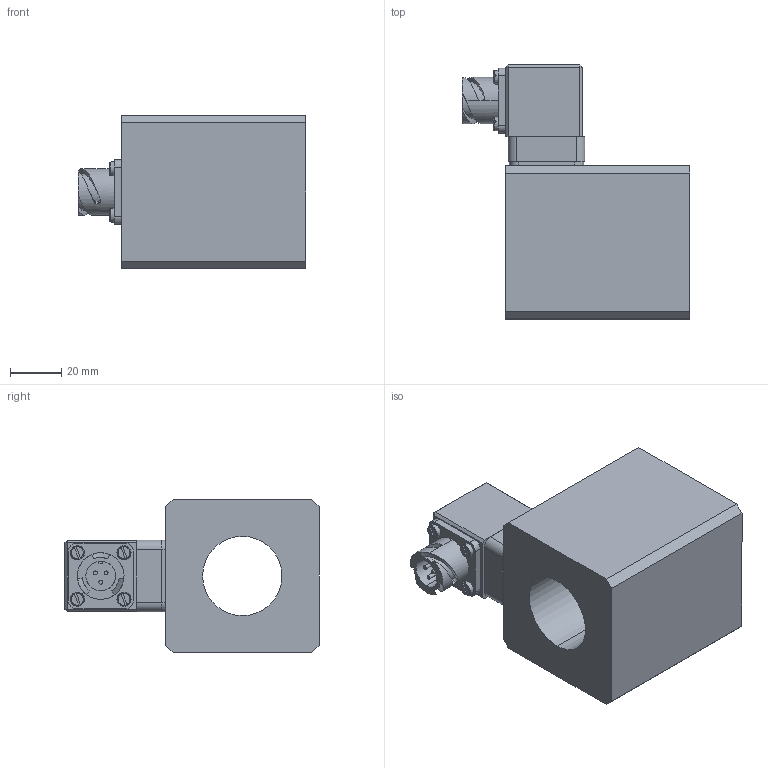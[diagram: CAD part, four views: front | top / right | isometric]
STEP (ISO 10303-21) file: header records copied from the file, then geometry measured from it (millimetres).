
FILE_DESCRIPTION (( 'STEP AP214' ), '1' );
FILE_NAME ('MBS60_31x72-AC.STEP', '2015-07-17T07:04:16', ( '' ), ( '' ), 'SwSTEP 2.0', 'SolidWorks 2014', '' );
FILE_SCHEMA (( 'AUTOMOTIVE_DESIGN' ));
Length unit declared in the file: millimetre
Products named in the file (2): MBS60_31x72-AC
Bounding box: 89 x 99.3 x 60 mm (x, y, z)
Volume: 245527.1 mm3; surface area: 48694.7 mm2
Topology: 8 solids, 12 shells, 466 faces, 1179 edges, 752 vertices
Faces by surface type: plane 249, cylinder 134, cone 46, torus 28, bspline 9
Entity records: 19793 total; most frequent: CARTESIAN_POINT 3351, DIRECTION 2368, ORIENTED_EDGE 2330, EDGE_CURVE 1165, AXIS2_PLACEMENT_3D 857, VERTEX_POINT 752, VECTOR 654, LINE 654
